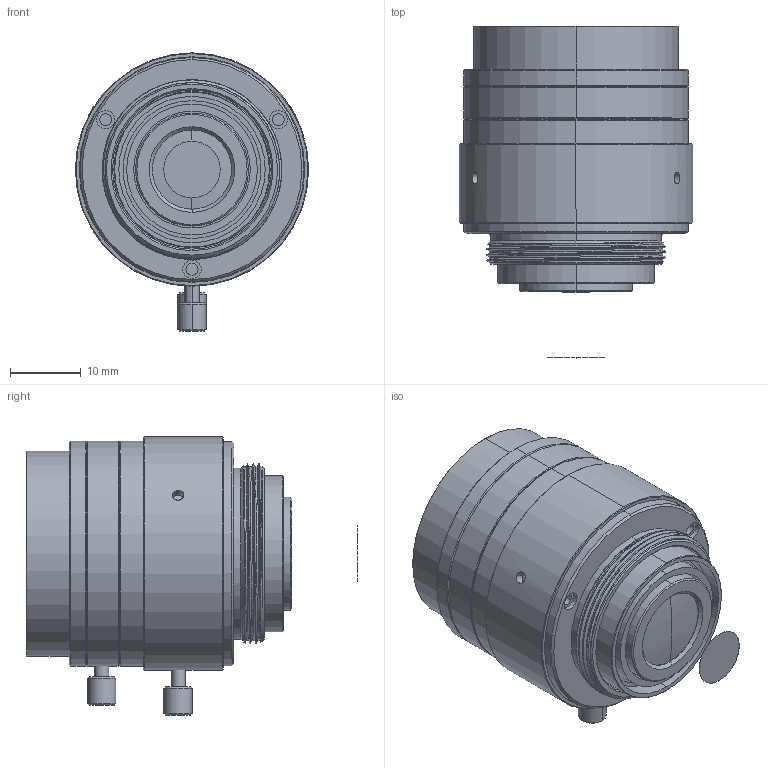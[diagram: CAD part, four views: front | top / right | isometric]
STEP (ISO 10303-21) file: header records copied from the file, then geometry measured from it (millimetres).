
FILE_DESCRIPTION((''),'2;1');
FILE_NAME('PHX-35-00_ASM','2020-06-05T',('sirtec'),(''),'CREO PARAMETRIC BY PTC INC, 2014190','CREO PARAMETRIC BY PTC INC, 2014190','');
FILE_SCHEMA(('CONFIG_CONTROL_DESIGN'));
Length unit declared in the file: millimetre
Products named in the file (20): PHX-35-201; PHX-16-304; PHX-16-303; PHX-16-305_ASM; PHX-35-302; PHX-35-101; PHX-35-301; PHX-16-308; PHX-35-202; PHX-35-403; PHX-35-401; PHX-35-109; PHX-16-203; PHX-35-G1; PHX-35-G7; PHX-35-102; PHX-35-108; PHX-16-501; PHX-35-XM; PHX-35-00_ASM
Assembly tree (21 placements, depth 3):
  PHX-35-00_ASM
    PHX-35-201
    PHX-16-305_ASM
      PHX-16-304
      PHX-16-303  x2
    PHX-35-302
    PHX-35-101
    PHX-35-301
    PHX-16-308
    PHX-35-202
    PHX-35-403
    PHX-35-401
    PHX-35-109
    PHX-16-203
    PHX-35-G1
    PHX-35-G7
    PHX-35-102
    PHX-35-108
    PHX-16-501  x2
    PHX-35-XM
Bounding box: 33 x 46.92 x 39.34 mm (x, y, z)
Volume: 17278.9 mm3; surface area: 26985 mm2
Topology: 20 solids, 20 shells, 463 faces, 1027 edges, 637 vertices
Faces by surface type: cylinder 226, cone 106, plane 99, bspline 24, sphere 8
Entity records: 18203 total; most frequent: CARTESIAN_POINT 7753, DIRECTION 2293, ORIENTED_EDGE 1942, EDGE_CURVE 971, AXIS2_PLACEMENT_3D 962, VERTEX_POINT 612, EDGE_LOOP 541, CIRCLE 501
